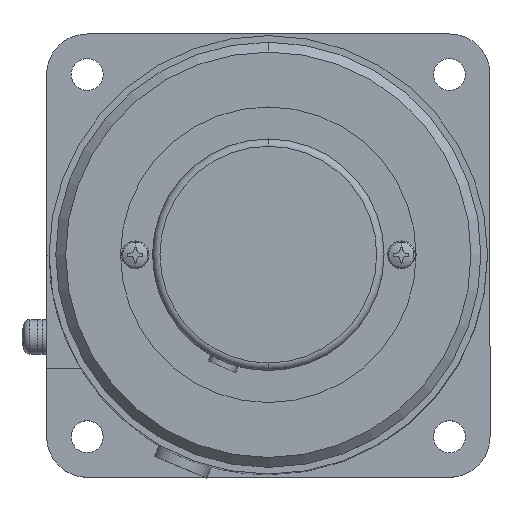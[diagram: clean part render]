
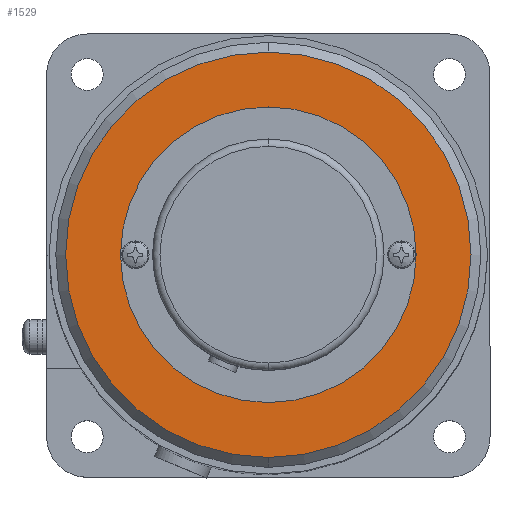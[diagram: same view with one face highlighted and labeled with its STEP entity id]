
A CAD part, top view. The second image highlights one B-rep face of the part: STEP entity #1529.
In plain terms, the highlighted planar face has unit normal (0, 0, 1).
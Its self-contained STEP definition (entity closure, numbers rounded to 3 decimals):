
#112 = CARTESIAN_POINT ( 'NONE',  ( 0., 0., 105. ) ) ;
#141 = CIRCLE ( 'NONE', #4859, 30. ) ;
#424 = ORIENTED_EDGE ( 'NONE', *, *, #942, .F. ) ;
#478 = AXIS2_PLACEMENT_3D ( 'NONE', #1607, #4458, #2012 ) ;
#521 = DIRECTION ( 'NONE',  ( 1., 0., 0. ) ) ;
#601 = CARTESIAN_POINT ( 'NONE',  ( 0., 41.15, 105. ) ) ;
#668 = CIRCLE ( 'NONE', #478, 41.15 ) ;
#724 = EDGE_CURVE ( 'NONE', #2338, #2205, #668, .T. ) ;
#812 = CARTESIAN_POINT ( 'NONE',  ( 30., 0., 105. ) ) ;
#942 = EDGE_CURVE ( 'NONE', #3641, #5054, #141, .T. ) ;
#1003 = DIRECTION ( 'NONE',  ( 0., 0., 1. ) ) ;
#1214 = DIRECTION ( 'NONE',  ( 0., -1., 0. ) ) ;
#1286 = EDGE_CURVE ( 'NONE', #5054, #3641, #3075, .T. ) ;
#1512 = DIRECTION ( 'NONE',  ( 0., 0., 1. ) ) ;
#1529 = ADVANCED_FACE ( 'NONE', ( #5064, #3007 ), #4230, .T. ) ;
#1607 = CARTESIAN_POINT ( 'NONE',  ( 0., 0., 105. ) ) ;
#1652 = AXIS2_PLACEMENT_3D ( 'NONE', #112, #2958, #521 ) ;
#1831 = AXIS2_PLACEMENT_3D ( 'NONE', #2165, #3652, #1214 ) ;
#2012 = DIRECTION ( 'NONE',  ( 0., -1., 0. ) ) ;
#2165 = CARTESIAN_POINT ( 'NONE',  ( 0., 0., 105. ) ) ;
#2205 = VERTEX_POINT ( 'NONE', #601 ) ;
#2338 = VERTEX_POINT ( 'NONE', #5176 ) ;
#2800 = EDGE_CURVE ( 'NONE', #2205, #2338, #5248, .T. ) ;
#2958 = DIRECTION ( 'NONE',  ( 0., 0., 1. ) ) ;
#3007 = FACE_OUTER_BOUND ( 'NONE', #5218, .T. ) ;
#3075 = CIRCLE ( 'NONE', #1652, 30. ) ;
#3425 = CARTESIAN_POINT ( 'NONE',  ( 0., 0., 105. ) ) ;
#3641 = VERTEX_POINT ( 'NONE', #812 ) ;
#3652 = DIRECTION ( 'NONE',  ( 0., 0., 1. ) ) ;
#3856 = DIRECTION ( 'NONE',  ( 1., 0., 0. ) ) ;
#3965 = CARTESIAN_POINT ( 'NONE',  ( 0., 0., 105. ) ) ;
#4230 = PLANE ( 'NONE',  #1831 ) ;
#4367 = DIRECTION ( 'NONE',  ( 0., -1., 0. ) ) ;
#4390 = EDGE_LOOP ( 'NONE', ( #424, #5146 ) ) ;
#4458 = DIRECTION ( 'NONE',  ( 0., 0., 1. ) ) ;
#4493 = ORIENTED_EDGE ( 'NONE', *, *, #2800, .T. ) ;
#4859 = AXIS2_PLACEMENT_3D ( 'NONE', #3425, #1003, #3856 ) ;
#4921 = ORIENTED_EDGE ( 'NONE', *, *, #724, .T. ) ;
#5054 = VERTEX_POINT ( 'NONE', #5101 ) ;
#5064 = FACE_BOUND ( 'NONE', #4390, .T. ) ;
#5101 = CARTESIAN_POINT ( 'NONE',  ( -30., 0., 105. ) ) ;
#5122 = AXIS2_PLACEMENT_3D ( 'NONE', #3965, #1512, #4367 ) ;
#5146 = ORIENTED_EDGE ( 'NONE', *, *, #1286, .F. ) ;
#5176 = CARTESIAN_POINT ( 'NONE',  ( 0., -41.15, 105. ) ) ;
#5218 = EDGE_LOOP ( 'NONE', ( #4493, #4921 ) ) ;
#5248 = CIRCLE ( 'NONE', #5122, 41.15 ) ;
